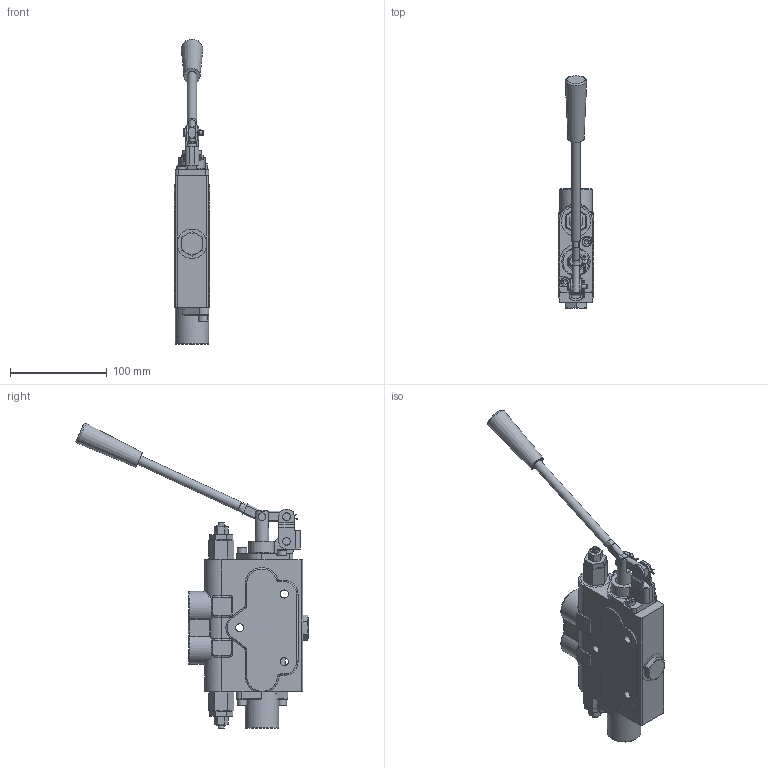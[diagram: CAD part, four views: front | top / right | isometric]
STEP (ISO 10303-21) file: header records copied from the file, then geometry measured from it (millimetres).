
FILE_DESCRIPTION((''),'2;1');
FILE_NAME('C:\Vault\Workspace\SVS1GA1GG_Shell.stp','2012-02-09T13:37:44',('PetersW'),(''),'Autodesk Inventor 2011','Autodesk Inventor 2011','');
FILE_SCHEMA(('AUTOMOTIVE_DESIGN { 1 0 10303 214 1 1 1 1 }'));
Length unit declared in the file: inch
Products named in the file (1): Part53
Bounding box: 36.69 x 239.75 x 315.48 mm (x, y, z)
Volume: 548557.1 mm3; surface area: 104836.6 mm2
Topology: 9 solids, 32 shells, 938 faces, 2380 edges, 1510 vertices
Faces by surface type: plane 495, cylinder 233, cone 90, torus 80, bspline 34, sphere 6
Full cylindrical faces by diameter (mm): 2.381 x1, 2.388 x2, 4.661 x3, 4.75 x8, 4.801 x2, 4.826 x7, 4.978 x3, 6.096 x3, 6.35 x4, 6.401 x2, 6.731 x4, 7.137 x2, 7.798 x1, 7.925 x3, 8.331 x3, 9.525 x5, 9.931 x1, 12.764 x1, 13.462 x6, 14.275 x1, 15.875 x6, 15.9 x6, 16.751 x1, 16.764 x4, 16.929 x2, 17.066 x1, 17.475 x1, 17.501 x5, 17.78 x1, 22.212 x2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
Entity records: 28905 total; most frequent: CARTESIAN_POINT 6562, DIRECTION 4407, ORIENTED_EDGE 4224, EDGE_CURVE 2112, AXIS2_PLACEMENT_3D 1615, VERTEX_POINT 1420, EDGE_LOOP 1210, VECTOR 1177
